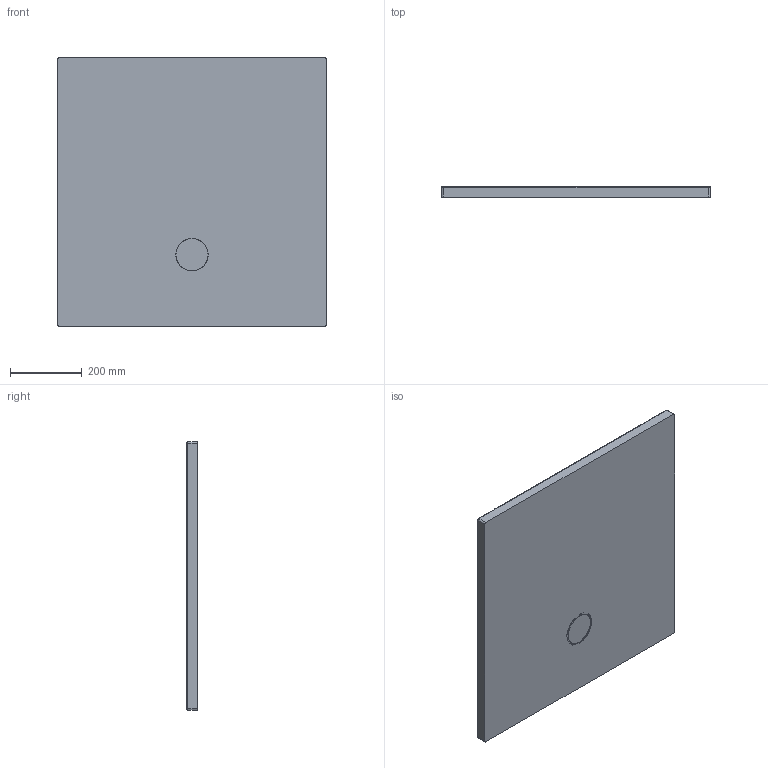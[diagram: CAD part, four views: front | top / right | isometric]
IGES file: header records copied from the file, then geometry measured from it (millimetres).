
Start section: SolidWorks IGES file using analytic representation for surfaces
Global section: file name: D:\Users\M.Szymanski\Desktop\B-M_Space\B_M_75x75x1,5.IGS; native system: SolidWorks 2011; preprocessor: SolidWorks 2011; author: M.Szymanski; date: 180216.072745; units: millimetre
Bounding box: 750 x 30 x 750 mm (x, y, z)
Surface area: 1227607.5 mm2 (no closed solid volume)
Topology: 0 solids, 0 shells, 61 faces, 737 edges, 734 vertices
Faces by surface type: bspline 39, revolution 22
